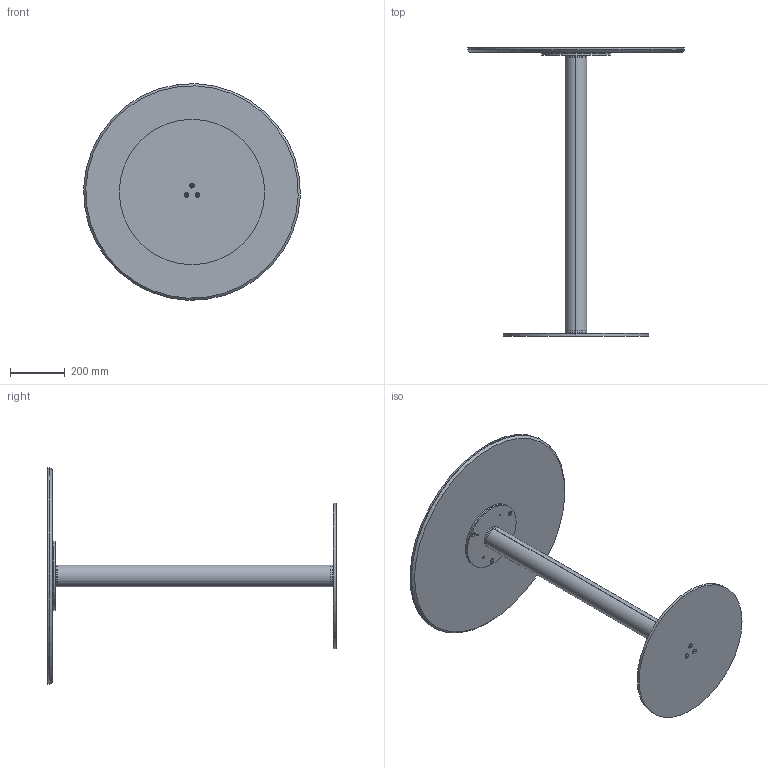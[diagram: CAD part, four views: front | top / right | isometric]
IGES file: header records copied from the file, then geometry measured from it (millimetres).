
Start section: SolidWorks IGES file using analytic representation for surfaces
Global section: file name: Y:\eforma\TECNICO\SOLIDWORKS\E-FORMA\5-TAVOLINI BISTRO\CILINDRO BISTRÒ H105\02 parts\CB15C.IGS; native system: SolidWorks 2022; preprocessor: SolidWorks 2022; author: eforma.tech; date: 240808.104918; units: millimetre
Bounding box: 789.44 x 1051 x 789.44 mm (x, y, z)
Volume: 11042086.1 mm3; surface area: 3170634.7 mm2
Topology: 8 solids, 8 shells, 110 faces, 254 edges, 160 vertices
Faces by surface type: revolution 94, plane 16
